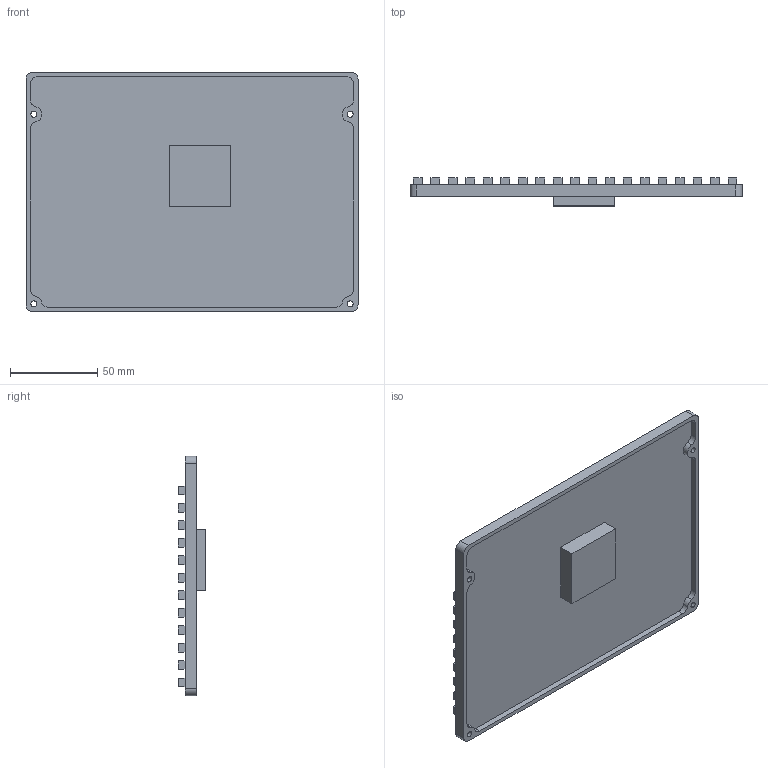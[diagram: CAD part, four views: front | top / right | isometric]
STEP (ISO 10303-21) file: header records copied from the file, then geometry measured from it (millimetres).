
FILE_DESCRIPTION (( 'STEP AP214' ), '1' );
FILE_NAME ('乐扰.741424.211 署赅.STEP', '2022-04-22T08:10:19', ( '' ), ( '' ), 'SwSTEP 2.0', 'SolidWorks 2019', '' );
FILE_SCHEMA (( 'AUTOMOTIVE_DESIGN' ));
Length unit declared in the file: millimetre
Products named in the file (1): 乐扰.741424.211 署赅
Bounding box: 190 x 16 x 137 mm (x, y, z)
Volume: 116681 mm3; surface area: 77174.1 mm2
Topology: 1 solids, 1 shells, 1132 faces, 2728 edges, 1816 vertices
Faces by surface type: plane 1098, cylinder 26, cone 8
Entity records: 32338 total; most frequent: CARTESIAN_POINT 5677, ORIENTED_EDGE 5456, DIRECTION 5054, EDGE_CURVE 2728, VECTOR 2668, LINE 2668, VERTEX_POINT 1816, EDGE_LOOP 1358
